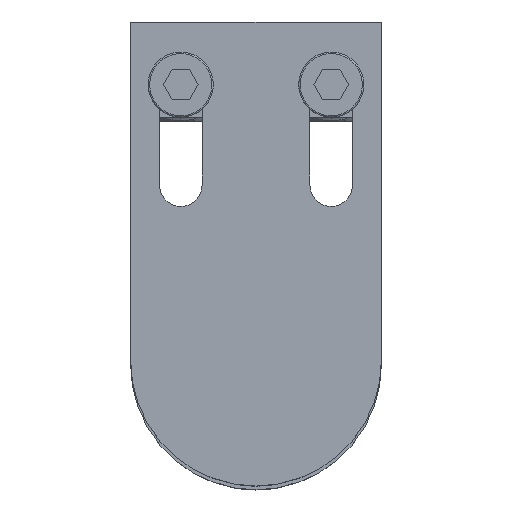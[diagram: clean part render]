
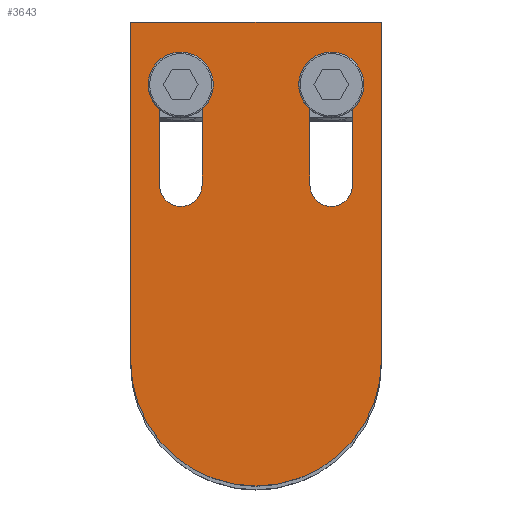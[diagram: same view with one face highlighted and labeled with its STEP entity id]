
A CAD part, top view. The second image highlights one B-rep face of the part: STEP entity #3643.
In plain terms, the highlighted planar face has unit normal (0, 0, 1) as drawn and (0, 0, -1) by its records, which use the part's own axes.
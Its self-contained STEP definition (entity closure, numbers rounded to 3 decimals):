
#10 = EDGE_CURVE ( 'NONE', #566, #4002, #787, .T. ) ;
#115 = DIRECTION ( 'NONE',  ( 0., 0., 1. ) ) ;
#170 = VERTEX_POINT ( 'NONE', #417 ) ;
#234 = DIRECTION ( 'NONE',  ( 0., 1., 0. ) ) ;
#243 = ORIENTED_EDGE ( 'NONE', *, *, #10, .T. ) ;
#291 = VECTOR ( 'NONE', #2439, 1000. ) ;
#330 = ORIENTED_EDGE ( 'NONE', *, *, #2271, .T. ) ;
#343 = CARTESIAN_POINT ( 'NONE',  ( -25., 0., -6. ) ) ;
#350 = CARTESIAN_POINT ( 'NONE',  ( 19.25, 55., -6. ) ) ;
#358 = EDGE_LOOP ( 'NONE', ( #4349, #2524, #2060, #4360 ) ) ;
#366 = LINE ( 'NONE', #1185, #4567 ) ;
#417 = CARTESIAN_POINT ( 'NONE',  ( 25., 67.5, -6. ) ) ;
#497 = CIRCLE ( 'NONE', #4970, 4.25 ) ;
#566 = VERTEX_POINT ( 'NONE', #5104 ) ;
#677 = DIRECTION ( 'NONE',  ( 0., 0., 1. ) ) ;
#724 = DIRECTION ( 'NONE',  ( 1., 0., 0. ) ) ;
#725 = DIRECTION ( 'NONE',  ( 0., -1., 0. ) ) ;
#755 = CARTESIAN_POINT ( 'NONE',  ( 10.75, 55., -6. ) ) ;
#756 = LINE ( 'NONE', #768, #5137 ) ;
#761 = DIRECTION ( 'NONE',  ( -1., 0., 0. ) ) ;
#764 = DIRECTION ( 'NONE',  ( 0., 1., 0. ) ) ;
#768 = CARTESIAN_POINT ( 'NONE',  ( 25., 67.5, -6. ) ) ;
#787 = CIRCLE ( 'NONE', #2804, 4.25 ) ;
#893 = FACE_OUTER_BOUND ( 'NONE', #358, .T. ) ;
#943 = DIRECTION ( 'NONE',  ( -1., 0., 0. ) ) ;
#1021 = ORIENTED_EDGE ( 'NONE', *, *, #2718, .T. ) ;
#1032 = VERTEX_POINT ( 'NONE', #4206 ) ;
#1039 = AXIS2_PLACEMENT_3D ( 'NONE', #4132, #115, #943 ) ;
#1080 = LINE ( 'NONE', #4890, #4311 ) ;
#1141 = CIRCLE ( 'NONE', #2425, 25. ) ;
#1168 = CARTESIAN_POINT ( 'NONE',  ( 15., 35., -6. ) ) ;
#1185 = CARTESIAN_POINT ( 'NONE',  ( 10.75, 35., -6. ) ) ;
#1279 = DIRECTION ( 'NONE',  ( 0., 1., 0. ) ) ;
#1295 = EDGE_CURVE ( 'NONE', #4453, #1032, #497, .T. ) ;
#1368 = DIRECTION ( 'NONE',  ( 0., 0., 1. ) ) ;
#1449 = CARTESIAN_POINT ( 'NONE',  ( 0., 0., -6. ) ) ;
#1498 = DIRECTION ( 'NONE',  ( 0., 0., 1. ) ) ;
#1571 = CARTESIAN_POINT ( 'NONE',  ( 0., 0., -6. ) ) ;
#1591 = FACE_BOUND ( 'NONE', #4057, .T. ) ;
#1656 = CARTESIAN_POINT ( 'NONE',  ( 19.25, 35., -6. ) ) ;
#1787 = VERTEX_POINT ( 'NONE', #5056 ) ;
#1788 = AXIS2_PLACEMENT_3D ( 'NONE', #3032, #1368, #5038 ) ;
#1838 = EDGE_CURVE ( 'NONE', #4857, #170, #3366, .T. ) ;
#1886 = VECTOR ( 'NONE', #2289, 1000. ) ;
#1917 = EDGE_CURVE ( 'NONE', #3913, #566, #366, .T. ) ;
#1960 = CIRCLE ( 'NONE', #1039, 4.25 ) ;
#2060 = ORIENTED_EDGE ( 'NONE', *, *, #2118, .F. ) ;
#2118 = EDGE_CURVE ( 'NONE', #170, #4502, #756, .T. ) ;
#2224 = VECTOR ( 'NONE', #764, 1000. ) ;
#2247 = CARTESIAN_POINT ( 'NONE',  ( 25., 0., -6. ) ) ;
#2271 = EDGE_CURVE ( 'NONE', #2771, #3913, #1960, .T. ) ;
#2289 = DIRECTION ( 'NONE',  ( 0., -1., 0. ) ) ;
#2291 = VECTOR ( 'NONE', #234, 1000. ) ;
#2425 = AXIS2_PLACEMENT_3D ( 'NONE', #1449, #1498, #3942 ) ;
#2439 = DIRECTION ( 'NONE',  ( 0., -1., 0. ) ) ;
#2505 = ORIENTED_EDGE ( 'NONE', *, *, #5024, .T. ) ;
#2524 = ORIENTED_EDGE ( 'NONE', *, *, #4773, .F. ) ;
#2641 = CARTESIAN_POINT ( 'NONE',  ( -10.75, 55., -6. ) ) ;
#2668 = CARTESIAN_POINT ( 'NONE',  ( -15., 55., -6. ) ) ;
#2718 = EDGE_CURVE ( 'NONE', #3736, #4453, #4568, .T. ) ;
#2766 = CARTESIAN_POINT ( 'NONE',  ( 25., 0., -6. ) ) ;
#2771 = VERTEX_POINT ( 'NONE', #350 ) ;
#2804 = AXIS2_PLACEMENT_3D ( 'NONE', #1168, #3625, #761 ) ;
#2841 = ORIENTED_EDGE ( 'NONE', *, *, #1917, .T. ) ;
#3032 = CARTESIAN_POINT ( 'NONE',  ( -15., 35., -6. ) ) ;
#3131 = EDGE_CURVE ( 'NONE', #1787, #3736, #4947, .T. ) ;
#3143 = DIRECTION ( 'NONE',  ( 0., 0., 1. ) ) ;
#3345 = ORIENTED_EDGE ( 'NONE', *, *, #3131, .T. ) ;
#3366 = LINE ( 'NONE', #2247, #2291 ) ;
#3482 = VERTEX_POINT ( 'NONE', #343 ) ;
#3554 = PLANE ( 'NONE',  #4463 ) ;
#3625 = DIRECTION ( 'NONE',  ( 0., 0., 1. ) ) ;
#3633 = DIRECTION ( 'NONE',  ( -1., 0., 0. ) ) ;
#3643 = ADVANCED_FACE ( 'NONE', ( #1591, #5123, #893 ), #3554, .F. ) ;
#3693 = CARTESIAN_POINT ( 'NONE',  ( -19.25, 35., -6. ) ) ;
#3736 = VERTEX_POINT ( 'NONE', #4046 ) ;
#3801 = LINE ( 'NONE', #4296, #1886 ) ;
#3913 = VERTEX_POINT ( 'NONE', #755 ) ;
#3942 = DIRECTION ( 'NONE',  ( 1., 0., 0. ) ) ;
#4002 = VERTEX_POINT ( 'NONE', #1656 ) ;
#4032 = EDGE_CURVE ( 'NONE', #4002, #2771, #1080, .T. ) ;
#4046 = CARTESIAN_POINT ( 'NONE',  ( -10.75, 35., -6. ) ) ;
#4057 = EDGE_LOOP ( 'NONE', ( #2841, #243, #4481, #330 ) ) ;
#4132 = CARTESIAN_POINT ( 'NONE',  ( 15., 55., -6. ) ) ;
#4206 = CARTESIAN_POINT ( 'NONE',  ( -19.25, 55., -6. ) ) ;
#4296 = CARTESIAN_POINT ( 'NONE',  ( -25., 0., -6. ) ) ;
#4311 = VECTOR ( 'NONE', #1279, 1000. ) ;
#4312 = EDGE_LOOP ( 'NONE', ( #2505, #3345, #1021, #4415 ) ) ;
#4349 = ORIENTED_EDGE ( 'NONE', *, *, #4403, .F. ) ;
#4360 = ORIENTED_EDGE ( 'NONE', *, *, #1838, .F. ) ;
#4403 = EDGE_CURVE ( 'NONE', #3482, #4857, #1141, .T. ) ;
#4415 = ORIENTED_EDGE ( 'NONE', *, *, #1295, .T. ) ;
#4453 = VERTEX_POINT ( 'NONE', #2641 ) ;
#4463 = AXIS2_PLACEMENT_3D ( 'NONE', #1571, #3143, #724 ) ;
#4481 = ORIENTED_EDGE ( 'NONE', *, *, #4032, .T. ) ;
#4502 = VERTEX_POINT ( 'NONE', #5136 ) ;
#4567 = VECTOR ( 'NONE', #725, 1000. ) ;
#4568 = LINE ( 'NONE', #5213, #2224 ) ;
#4736 = DIRECTION ( 'NONE',  ( 1., 0., 0. ) ) ;
#4773 = EDGE_CURVE ( 'NONE', #4502, #3482, #3801, .T. ) ;
#4857 = VERTEX_POINT ( 'NONE', #2766 ) ;
#4890 = CARTESIAN_POINT ( 'NONE',  ( 19.25, 35., -6. ) ) ;
#4947 = CIRCLE ( 'NONE', #1788, 4.25 ) ;
#4970 = AXIS2_PLACEMENT_3D ( 'NONE', #2668, #677, #4736 ) ;
#5024 = EDGE_CURVE ( 'NONE', #1032, #1787, #5115, .T. ) ;
#5038 = DIRECTION ( 'NONE',  ( 1., 0., 0. ) ) ;
#5056 = CARTESIAN_POINT ( 'NONE',  ( -19.25, 35., -6. ) ) ;
#5104 = CARTESIAN_POINT ( 'NONE',  ( 10.75, 35., -6. ) ) ;
#5115 = LINE ( 'NONE', #3693, #291 ) ;
#5123 = FACE_BOUND ( 'NONE', #4312, .T. ) ;
#5136 = CARTESIAN_POINT ( 'NONE',  ( -25., 67.5, -6. ) ) ;
#5137 = VECTOR ( 'NONE', #3633, 1000. ) ;
#5213 = CARTESIAN_POINT ( 'NONE',  ( -10.75, 35., -6. ) ) ;
